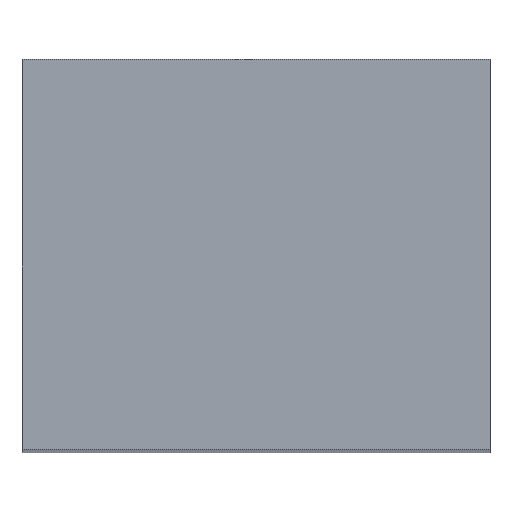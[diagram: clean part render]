
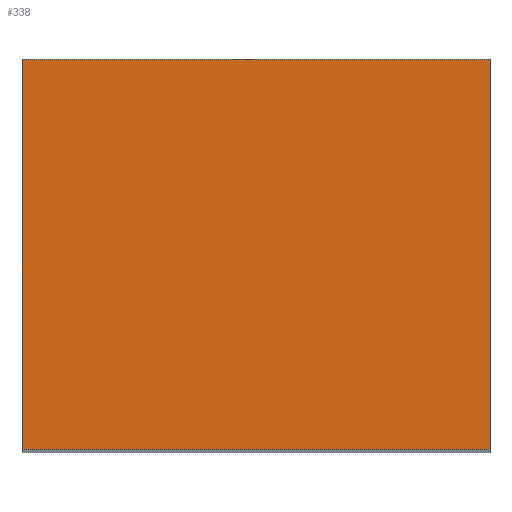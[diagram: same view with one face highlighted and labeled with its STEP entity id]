
A CAD part, top view. The second image highlights one B-rep face of the part: STEP entity #338.
In plain terms, the highlighted planar face has unit normal (0, 0, 1).
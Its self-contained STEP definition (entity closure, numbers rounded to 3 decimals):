
#24 = VERTEX_POINT('',#25);
#25 = CARTESIAN_POINT('',(-79.5,128.913,165.));
#32 = PLANE('',#33);
#33 = AXIS2_PLACEMENT_3D('',#34,#35,#36);
#34 = CARTESIAN_POINT('',(-79.5,128.913,75.));
#35 = DIRECTION('',(1.,0.,-0.));
#36 = DIRECTION('',(0.,0.,1.));
#44 = PLANE('',#45);
#45 = AXIS2_PLACEMENT_3D('',#46,#47,#48);
#46 = CARTESIAN_POINT('',(-79.5,128.913,75.));
#47 = DIRECTION('',(-0.,1.,0.));
#48 = DIRECTION('',(0.,0.,1.));
#85 = VERTEX_POINT('',#86);
#86 = CARTESIAN_POINT('',(-79.5,148.913,165.));
#100 = PLANE('',#101);
#101 = AXIS2_PLACEMENT_3D('',#102,#103,#104);
#102 = CARTESIAN_POINT('',(-79.5,148.913,75.));
#103 = DIRECTION('',(-0.,1.,0.));
#104 = DIRECTION('',(0.,0.,1.));
#112 = EDGE_CURVE('',#24,#85,#113,.T.);
#113 = SURFACE_CURVE('',#114,(#118,#125),.PCURVE_S1.);
#114 = LINE('',#115,#116);
#115 = CARTESIAN_POINT('',(-79.5,128.913,165.));
#116 = VECTOR('',#117,1.);
#117 = DIRECTION('',(-0.,1.,0.));
#118 = PCURVE('',#32,#119);
#119 = DEFINITIONAL_REPRESENTATION('',(#120),#124);
#120 = LINE('',#121,#122);
#121 = CARTESIAN_POINT('',(90.,0.));
#122 = VECTOR('',#123,1.);
#123 = DIRECTION('',(0.,-1.));
#124 = ( GEOMETRIC_REPRESENTATION_CONTEXT(2) 
PARAMETRIC_REPRESENTATION_CONTEXT() REPRESENTATION_CONTEXT('2D SPACE',''
  ) );
#125 = PCURVE('',#126,#131);
#126 = PLANE('',#127);
#127 = AXIS2_PLACEMENT_3D('',#128,#129,#130);
#128 = CARTESIAN_POINT('',(-79.5,128.913,165.));
#129 = DIRECTION('',(0.,0.,1.));
#130 = DIRECTION('',(1.,0.,-0.));
#131 = DEFINITIONAL_REPRESENTATION('',(#132),#136);
#132 = LINE('',#133,#134);
#133 = CARTESIAN_POINT('',(0.,0.));
#134 = VECTOR('',#135,1.);
#135 = DIRECTION('',(0.,1.));
#136 = ( GEOMETRIC_REPRESENTATION_CONTEXT(2) 
PARAMETRIC_REPRESENTATION_CONTEXT() REPRESENTATION_CONTEXT('2D SPACE',''
  ) );
#144 = VERTEX_POINT('',#145);
#145 = CARTESIAN_POINT('',(-55.5,128.913,165.));
#152 = PLANE('',#153);
#153 = AXIS2_PLACEMENT_3D('',#154,#155,#156);
#154 = CARTESIAN_POINT('',(-55.5,128.913,75.));
#155 = DIRECTION('',(1.,0.,-0.));
#156 = DIRECTION('',(0.,0.,1.));
#195 = VERTEX_POINT('',#196);
#196 = CARTESIAN_POINT('',(-55.5,148.913,165.));
#217 = EDGE_CURVE('',#144,#195,#218,.T.);
#218 = SURFACE_CURVE('',#219,(#223,#230),.PCURVE_S1.);
#219 = LINE('',#220,#221);
#220 = CARTESIAN_POINT('',(-55.5,128.913,165.));
#221 = VECTOR('',#222,1.);
#222 = DIRECTION('',(-0.,1.,0.));
#223 = PCURVE('',#152,#224);
#224 = DEFINITIONAL_REPRESENTATION('',(#225),#229);
#225 = LINE('',#226,#227);
#226 = CARTESIAN_POINT('',(90.,0.));
#227 = VECTOR('',#228,1.);
#228 = DIRECTION('',(0.,-1.));
#229 = ( GEOMETRIC_REPRESENTATION_CONTEXT(2) 
PARAMETRIC_REPRESENTATION_CONTEXT() REPRESENTATION_CONTEXT('2D SPACE',''
  ) );
#230 = PCURVE('',#126,#231);
#231 = DEFINITIONAL_REPRESENTATION('',(#232),#236);
#232 = LINE('',#233,#234);
#233 = CARTESIAN_POINT('',(24.,0.));
#234 = VECTOR('',#235,1.);
#235 = DIRECTION('',(0.,1.));
#236 = ( GEOMETRIC_REPRESENTATION_CONTEXT(2) 
PARAMETRIC_REPRESENTATION_CONTEXT() REPRESENTATION_CONTEXT('2D SPACE',''
  ) );
#263 = EDGE_CURVE('',#24,#144,#264,.T.);
#264 = SURFACE_CURVE('',#265,(#269,#276),.PCURVE_S1.);
#265 = LINE('',#266,#267);
#266 = CARTESIAN_POINT('',(-79.5,128.913,165.));
#267 = VECTOR('',#268,1.);
#268 = DIRECTION('',(1.,0.,-0.));
#269 = PCURVE('',#44,#270);
#270 = DEFINITIONAL_REPRESENTATION('',(#271),#275);
#271 = LINE('',#272,#273);
#272 = CARTESIAN_POINT('',(90.,0.));
#273 = VECTOR('',#274,1.);
#274 = DIRECTION('',(0.,1.));
#275 = ( GEOMETRIC_REPRESENTATION_CONTEXT(2) 
PARAMETRIC_REPRESENTATION_CONTEXT() REPRESENTATION_CONTEXT('2D SPACE',''
  ) );
#276 = PCURVE('',#126,#277);
#277 = DEFINITIONAL_REPRESENTATION('',(#278),#282);
#278 = LINE('',#279,#280);
#279 = CARTESIAN_POINT('',(0.,0.));
#280 = VECTOR('',#281,1.);
#281 = DIRECTION('',(1.,0.));
#282 = ( GEOMETRIC_REPRESENTATION_CONTEXT(2) 
PARAMETRIC_REPRESENTATION_CONTEXT() REPRESENTATION_CONTEXT('2D SPACE',''
  ) );
#310 = EDGE_CURVE('',#85,#195,#311,.T.);
#311 = SURFACE_CURVE('',#312,(#316,#323),.PCURVE_S1.);
#312 = LINE('',#313,#314);
#313 = CARTESIAN_POINT('',(-79.5,148.913,165.));
#314 = VECTOR('',#315,1.);
#315 = DIRECTION('',(1.,0.,-0.));
#316 = PCURVE('',#100,#317);
#317 = DEFINITIONAL_REPRESENTATION('',(#318),#322);
#318 = LINE('',#319,#320);
#319 = CARTESIAN_POINT('',(90.,0.));
#320 = VECTOR('',#321,1.);
#321 = DIRECTION('',(0.,1.));
#322 = ( GEOMETRIC_REPRESENTATION_CONTEXT(2) 
PARAMETRIC_REPRESENTATION_CONTEXT() REPRESENTATION_CONTEXT('2D SPACE',''
  ) );
#323 = PCURVE('',#126,#324);
#324 = DEFINITIONAL_REPRESENTATION('',(#325),#329);
#325 = LINE('',#326,#327);
#326 = CARTESIAN_POINT('',(0.,20.));
#327 = VECTOR('',#328,1.);
#328 = DIRECTION('',(1.,0.));
#329 = ( GEOMETRIC_REPRESENTATION_CONTEXT(2) 
PARAMETRIC_REPRESENTATION_CONTEXT() REPRESENTATION_CONTEXT('2D SPACE',''
  ) );
#338 = ADVANCED_FACE('',(#339),#126,.T.);
#339 = FACE_BOUND('',#340,.T.);
#340 = EDGE_LOOP('',(#341,#342,#343,#344));
#341 = ORIENTED_EDGE('',*,*,#112,.F.);
#342 = ORIENTED_EDGE('',*,*,#263,.T.);
#343 = ORIENTED_EDGE('',*,*,#217,.T.);
#344 = ORIENTED_EDGE('',*,*,#310,.F.);
